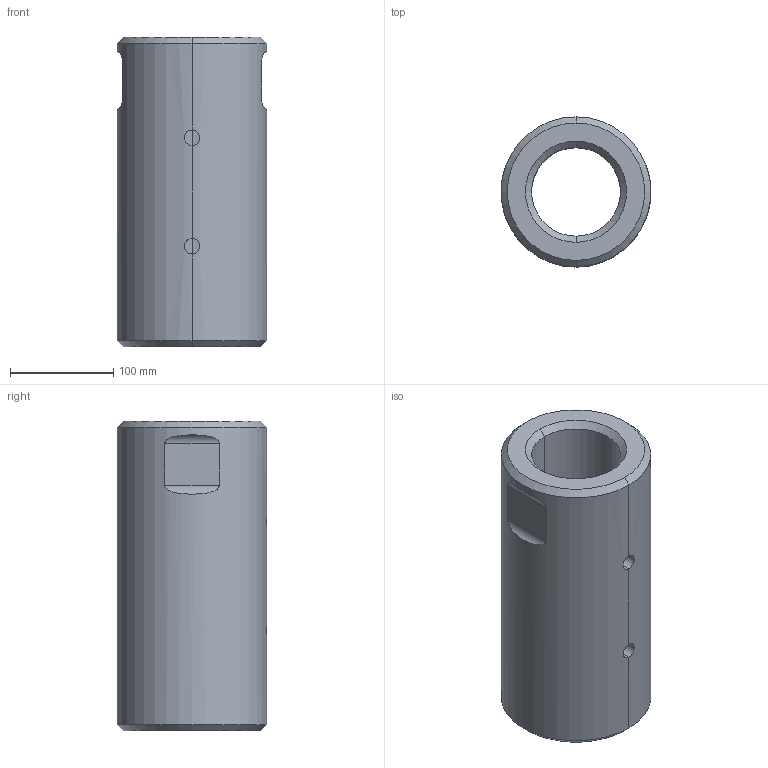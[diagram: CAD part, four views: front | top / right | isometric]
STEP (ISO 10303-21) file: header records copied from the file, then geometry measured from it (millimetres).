
FILE_DESCRIPTION (( 'STEP AP203' ), '1' );
FILE_NAME ('Spannschloss M90.STEP', '2018-02-22T10:04:44', ( 'install' ), ( 'Hewlett-Packard Company' ), 'SwSTEP 2.0', 'SolidWorks 2017', '' );
FILE_SCHEMA (( 'CONFIG_CONTROL_DESIGN' ));
Length unit declared in the file: millimetre
Products named in the file (1): Spannschloss M90
Bounding box: 145 x 145 x 300 mm (x, y, z)
Volume: 3056955 mm3; surface area: 239855.7 mm2
Topology: 1 solids, 1 shells, 30 faces, 66 edges, 38 vertices
Faces by surface type: cylinder 16, cone 8, plane 6
Entity records: 1465 total; most frequent: CARTESIAN_POINT 725, DIRECTION 140, ORIENTED_EDGE 132, EDGE_CURVE 66, AXIS2_PLACEMENT_3D 55, VERTEX_POINT 38, EDGE_LOOP 36, ADVANCED_FACE 30
